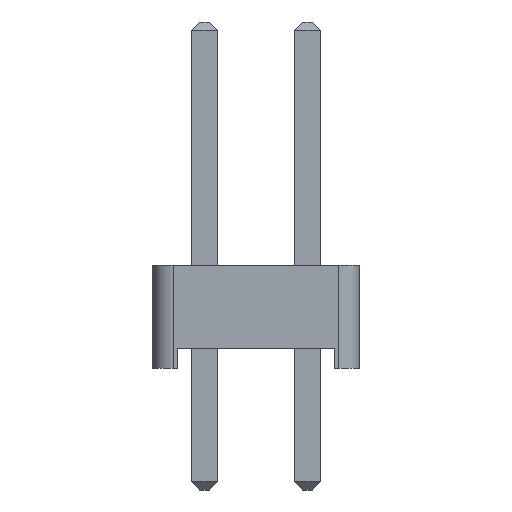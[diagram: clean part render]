
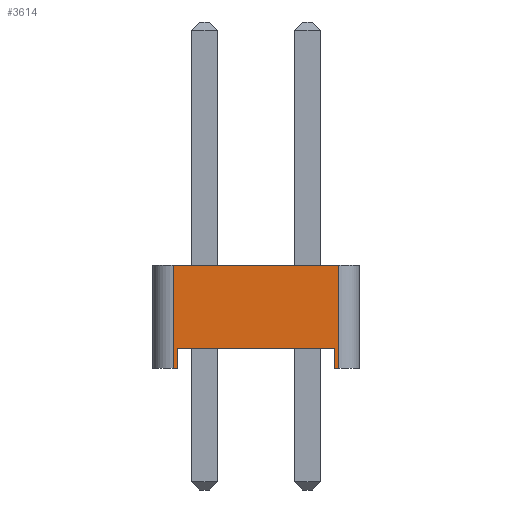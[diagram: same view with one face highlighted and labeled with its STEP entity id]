
A CAD part, left-side view. The second image highlights one B-rep face of the part: STEP entity #3614.
In plain terms, the highlighted planar face has unit normal (-1, 0, 0).
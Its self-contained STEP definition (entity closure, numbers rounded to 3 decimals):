
#3354 = VERTEX_POINT('',#3355);
#3355 = CARTESIAN_POINT('',(-1.27,2.04,0.));
#3363 = PLANE('',#3364);
#3364 = AXIS2_PLACEMENT_3D('',#3365,#3366,#3367);
#3365 = CARTESIAN_POINT('',(0.,0.,0.));
#3366 = DIRECTION('',(-0.,-0.,-1.));
#3367 = DIRECTION('',(-1.,0.,0.));
#3379 = CYLINDRICAL_SURFACE('',#3380,0.5);
#3380 = AXIS2_PLACEMENT_3D('',#3381,#3382,#3383);
#3381 = CARTESIAN_POINT('',(-0.77,2.04,0.));
#3382 = DIRECTION('',(0.,0.,1.));
#3383 = DIRECTION('',(0.,1.,0.));
#3481 = VERTEX_POINT('',#3482);
#3482 = CARTESIAN_POINT('',(-1.27,1.94,0.));
#3496 = PLANE('',#3497);
#3497 = AXIS2_PLACEMENT_3D('',#3498,#3499,#3500);
#3498 = CARTESIAN_POINT('',(1.27,1.94,0.));
#3499 = DIRECTION('',(0.,-1.,0.));
#3500 = DIRECTION('',(-1.,0.,0.));
#3508 = EDGE_CURVE('',#3481,#3354,#3509,.T.);
#3509 = SURFACE_CURVE('',#3510,(#3514,#3521),.PCURVE_S1.);
#3510 = LINE('',#3511,#3512);
#3511 = CARTESIAN_POINT('',(-1.27,-2.54,0.));
#3512 = VECTOR('',#3513,1.);
#3513 = DIRECTION('',(0.,1.,0.));
#3514 = PCURVE('',#3363,#3515);
#3515 = DEFINITIONAL_REPRESENTATION('',(#3516),#3520);
#3516 = LINE('',#3517,#3518);
#3517 = CARTESIAN_POINT('',(1.27,-2.54));
#3518 = VECTOR('',#3519,1.);
#3519 = DIRECTION('',(0.,1.));
#3520 = ( GEOMETRIC_REPRESENTATION_CONTEXT(2) 
PARAMETRIC_REPRESENTATION_CONTEXT() REPRESENTATION_CONTEXT('2D SPACE',''
  ) );
#3521 = PCURVE('',#3522,#3527);
#3522 = PLANE('',#3523);
#3523 = AXIS2_PLACEMENT_3D('',#3524,#3525,#3526);
#3524 = CARTESIAN_POINT('',(-1.27,-2.54,0.));
#3525 = DIRECTION('',(-1.,0.,0.));
#3526 = DIRECTION('',(0.,1.,0.));
#3527 = DEFINITIONAL_REPRESENTATION('',(#3528),#3532);
#3528 = LINE('',#3529,#3530);
#3529 = CARTESIAN_POINT('',(0.,0.));
#3530 = VECTOR('',#3531,1.);
#3531 = DIRECTION('',(1.,0.));
#3532 = ( GEOMETRIC_REPRESENTATION_CONTEXT(2) 
PARAMETRIC_REPRESENTATION_CONTEXT() REPRESENTATION_CONTEXT('2D SPACE',''
  ) );
#3538 = EDGE_CURVE('',#3354,#3539,#3541,.T.);
#3539 = VERTEX_POINT('',#3540);
#3540 = CARTESIAN_POINT('',(-1.27,2.04,2.54));
#3541 = SURFACE_CURVE('',#3542,(#3546,#3553),.PCURVE_S1.);
#3542 = LINE('',#3543,#3544);
#3543 = CARTESIAN_POINT('',(-1.27,2.04,0.));
#3544 = VECTOR('',#3545,1.);
#3545 = DIRECTION('',(0.,0.,1.));
#3546 = PCURVE('',#3379,#3547);
#3547 = DEFINITIONAL_REPRESENTATION('',(#3548),#3552);
#3548 = LINE('',#3549,#3550);
#3549 = CARTESIAN_POINT('',(1.571,0.));
#3550 = VECTOR('',#3551,1.);
#3551 = DIRECTION('',(0.,1.));
#3552 = ( GEOMETRIC_REPRESENTATION_CONTEXT(2) 
PARAMETRIC_REPRESENTATION_CONTEXT() REPRESENTATION_CONTEXT('2D SPACE',''
  ) );
#3553 = PCURVE('',#3522,#3554);
#3554 = DEFINITIONAL_REPRESENTATION('',(#3555),#3559);
#3555 = LINE('',#3556,#3557);
#3556 = CARTESIAN_POINT('',(4.58,0.));
#3557 = VECTOR('',#3558,1.);
#3558 = DIRECTION('',(0.,-1.));
#3559 = ( GEOMETRIC_REPRESENTATION_CONTEXT(2) 
PARAMETRIC_REPRESENTATION_CONTEXT() REPRESENTATION_CONTEXT('2D SPACE',''
  ) );
#3578 = PLANE('',#3579);
#3579 = AXIS2_PLACEMENT_3D('',#3580,#3581,#3582);
#3580 = CARTESIAN_POINT('',(0.,0.,2.54));
#3581 = DIRECTION('',(-0.,-0.,-1.));
#3582 = DIRECTION('',(-1.,0.,0.));
#3614 = ADVANCED_FACE('',(#3615),#3522,.T.);
#3615 = FACE_BOUND('',#3616,.T.);
#3616 = EDGE_LOOP('',(#3617,#3647,#3675,#3696,#3697,#3698,#3721,#3749));
#3617 = ORIENTED_EDGE('',*,*,#3618,.F.);
#3618 = EDGE_CURVE('',#3619,#3621,#3623,.T.);
#3619 = VERTEX_POINT('',#3620);
#3620 = CARTESIAN_POINT('',(-1.27,-2.04,0.));
#3621 = VERTEX_POINT('',#3622);
#3622 = CARTESIAN_POINT('',(-1.27,-1.94,0.));
#3623 = SURFACE_CURVE('',#3624,(#3628,#3635),.PCURVE_S1.);
#3624 = LINE('',#3625,#3626);
#3625 = CARTESIAN_POINT('',(-1.27,-2.54,0.));
#3626 = VECTOR('',#3627,1.);
#3627 = DIRECTION('',(0.,1.,0.));
#3628 = PCURVE('',#3522,#3629);
#3629 = DEFINITIONAL_REPRESENTATION('',(#3630),#3634);
#3630 = LINE('',#3631,#3632);
#3631 = CARTESIAN_POINT('',(0.,0.));
#3632 = VECTOR('',#3633,1.);
#3633 = DIRECTION('',(1.,0.));
#3634 = ( GEOMETRIC_REPRESENTATION_CONTEXT(2) 
PARAMETRIC_REPRESENTATION_CONTEXT() REPRESENTATION_CONTEXT('2D SPACE',''
  ) );
#3635 = PCURVE('',#3636,#3641);
#3636 = PLANE('',#3637);
#3637 = AXIS2_PLACEMENT_3D('',#3638,#3639,#3640);
#3638 = CARTESIAN_POINT('',(0.,0.,0.));
#3639 = DIRECTION('',(-0.,-0.,-1.));
#3640 = DIRECTION('',(-1.,0.,0.));
#3641 = DEFINITIONAL_REPRESENTATION('',(#3642),#3646);
#3642 = LINE('',#3643,#3644);
#3643 = CARTESIAN_POINT('',(1.27,-2.54));
#3644 = VECTOR('',#3645,1.);
#3645 = DIRECTION('',(0.,1.));
#3646 = ( GEOMETRIC_REPRESENTATION_CONTEXT(2) 
PARAMETRIC_REPRESENTATION_CONTEXT() REPRESENTATION_CONTEXT('2D SPACE',''
  ) );
#3647 = ORIENTED_EDGE('',*,*,#3648,.T.);
#3648 = EDGE_CURVE('',#3619,#3649,#3651,.T.);
#3649 = VERTEX_POINT('',#3650);
#3650 = CARTESIAN_POINT('',(-1.27,-2.04,2.54));
#3651 = SURFACE_CURVE('',#3652,(#3656,#3663),.PCURVE_S1.);
#3652 = LINE('',#3653,#3654);
#3653 = CARTESIAN_POINT('',(-1.27,-2.04,0.));
#3654 = VECTOR('',#3655,1.);
#3655 = DIRECTION('',(0.,0.,1.));
#3656 = PCURVE('',#3522,#3657);
#3657 = DEFINITIONAL_REPRESENTATION('',(#3658),#3662);
#3658 = LINE('',#3659,#3660);
#3659 = CARTESIAN_POINT('',(0.5,0.));
#3660 = VECTOR('',#3661,1.);
#3661 = DIRECTION('',(0.,-1.));
#3662 = ( GEOMETRIC_REPRESENTATION_CONTEXT(2) 
PARAMETRIC_REPRESENTATION_CONTEXT() REPRESENTATION_CONTEXT('2D SPACE',''
  ) );
#3663 = PCURVE('',#3664,#3669);
#3664 = CYLINDRICAL_SURFACE('',#3665,0.5);
#3665 = AXIS2_PLACEMENT_3D('',#3666,#3667,#3668);
#3666 = CARTESIAN_POINT('',(-0.77,-2.04,0.));
#3667 = DIRECTION('',(0.,0.,1.));
#3668 = DIRECTION('',(0.,-1.,0.));
#3669 = DEFINITIONAL_REPRESENTATION('',(#3670),#3674);
#3670 = LINE('',#3671,#3672);
#3671 = CARTESIAN_POINT('',(-1.571,0.));
#3672 = VECTOR('',#3673,1.);
#3673 = DIRECTION('',(-0.,1.));
#3674 = ( GEOMETRIC_REPRESENTATION_CONTEXT(2) 
PARAMETRIC_REPRESENTATION_CONTEXT() REPRESENTATION_CONTEXT('2D SPACE',''
  ) );
#3675 = ORIENTED_EDGE('',*,*,#3676,.T.);
#3676 = EDGE_CURVE('',#3649,#3539,#3677,.T.);
#3677 = SURFACE_CURVE('',#3678,(#3682,#3689),.PCURVE_S1.);
#3678 = LINE('',#3679,#3680);
#3679 = CARTESIAN_POINT('',(-1.27,-2.54,2.54));
#3680 = VECTOR('',#3681,1.);
#3681 = DIRECTION('',(0.,1.,0.));
#3682 = PCURVE('',#3522,#3683);
#3683 = DEFINITIONAL_REPRESENTATION('',(#3684),#3688);
#3684 = LINE('',#3685,#3686);
#3685 = CARTESIAN_POINT('',(0.,-2.54));
#3686 = VECTOR('',#3687,1.);
#3687 = DIRECTION('',(1.,0.));
#3688 = ( GEOMETRIC_REPRESENTATION_CONTEXT(2) 
PARAMETRIC_REPRESENTATION_CONTEXT() REPRESENTATION_CONTEXT('2D SPACE',''
  ) );
#3689 = PCURVE('',#3578,#3690);
#3690 = DEFINITIONAL_REPRESENTATION('',(#3691),#3695);
#3691 = LINE('',#3692,#3693);
#3692 = CARTESIAN_POINT('',(1.27,-2.54));
#3693 = VECTOR('',#3694,1.);
#3694 = DIRECTION('',(0.,1.));
#3695 = ( GEOMETRIC_REPRESENTATION_CONTEXT(2) 
PARAMETRIC_REPRESENTATION_CONTEXT() REPRESENTATION_CONTEXT('2D SPACE',''
  ) );
#3696 = ORIENTED_EDGE('',*,*,#3538,.F.);
#3697 = ORIENTED_EDGE('',*,*,#3508,.F.);
#3698 = ORIENTED_EDGE('',*,*,#3699,.T.);
#3699 = EDGE_CURVE('',#3481,#3700,#3702,.T.);
#3700 = VERTEX_POINT('',#3701);
#3701 = CARTESIAN_POINT('',(-1.27,1.94,0.5));
#3702 = SURFACE_CURVE('',#3703,(#3707,#3714),.PCURVE_S1.);
#3703 = LINE('',#3704,#3705);
#3704 = CARTESIAN_POINT('',(-1.27,1.94,0.));
#3705 = VECTOR('',#3706,1.);
#3706 = DIRECTION('',(0.,0.,1.));
#3707 = PCURVE('',#3522,#3708);
#3708 = DEFINITIONAL_REPRESENTATION('',(#3709),#3713);
#3709 = LINE('',#3710,#3711);
#3710 = CARTESIAN_POINT('',(4.48,0.));
#3711 = VECTOR('',#3712,1.);
#3712 = DIRECTION('',(0.,-1.));
#3713 = ( GEOMETRIC_REPRESENTATION_CONTEXT(2) 
PARAMETRIC_REPRESENTATION_CONTEXT() REPRESENTATION_CONTEXT('2D SPACE',''
  ) );
#3714 = PCURVE('',#3496,#3715);
#3715 = DEFINITIONAL_REPRESENTATION('',(#3716),#3720);
#3716 = LINE('',#3717,#3718);
#3717 = CARTESIAN_POINT('',(2.54,0.));
#3718 = VECTOR('',#3719,1.);
#3719 = DIRECTION('',(0.,-1.));
#3720 = ( GEOMETRIC_REPRESENTATION_CONTEXT(2) 
PARAMETRIC_REPRESENTATION_CONTEXT() REPRESENTATION_CONTEXT('2D SPACE',''
  ) );
#3721 = ORIENTED_EDGE('',*,*,#3722,.T.);
#3722 = EDGE_CURVE('',#3700,#3723,#3725,.T.);
#3723 = VERTEX_POINT('',#3724);
#3724 = CARTESIAN_POINT('',(-1.27,-1.94,0.5));
#3725 = SURFACE_CURVE('',#3726,(#3730,#3737),.PCURVE_S1.);
#3726 = LINE('',#3727,#3728);
#3727 = CARTESIAN_POINT('',(-1.27,1.94,0.5));
#3728 = VECTOR('',#3729,1.);
#3729 = DIRECTION('',(0.,-1.,0.));
#3730 = PCURVE('',#3522,#3731);
#3731 = DEFINITIONAL_REPRESENTATION('',(#3732),#3736);
#3732 = LINE('',#3733,#3734);
#3733 = CARTESIAN_POINT('',(4.48,-0.5));
#3734 = VECTOR('',#3735,1.);
#3735 = DIRECTION('',(-1.,0.));
#3736 = ( GEOMETRIC_REPRESENTATION_CONTEXT(2) 
PARAMETRIC_REPRESENTATION_CONTEXT() REPRESENTATION_CONTEXT('2D SPACE',''
  ) );
#3737 = PCURVE('',#3738,#3743);
#3738 = PLANE('',#3739);
#3739 = AXIS2_PLACEMENT_3D('',#3740,#3741,#3742);
#3740 = CARTESIAN_POINT('',(0.,0.,0.5));
#3741 = DIRECTION('',(0.,0.,1.));
#3742 = DIRECTION('',(1.,0.,0.));
#3743 = DEFINITIONAL_REPRESENTATION('',(#3744),#3748);
#3744 = LINE('',#3745,#3746);
#3745 = CARTESIAN_POINT('',(-1.27,1.94));
#3746 = VECTOR('',#3747,1.);
#3747 = DIRECTION('',(0.,-1.));
#3748 = ( GEOMETRIC_REPRESENTATION_CONTEXT(2) 
PARAMETRIC_REPRESENTATION_CONTEXT() REPRESENTATION_CONTEXT('2D SPACE',''
  ) );
#3749 = ORIENTED_EDGE('',*,*,#3750,.F.);
#3750 = EDGE_CURVE('',#3621,#3723,#3751,.T.);
#3751 = SURFACE_CURVE('',#3752,(#3756,#3763),.PCURVE_S1.);
#3752 = LINE('',#3753,#3754);
#3753 = CARTESIAN_POINT('',(-1.27,-1.94,0.));
#3754 = VECTOR('',#3755,1.);
#3755 = DIRECTION('',(0.,0.,1.));
#3756 = PCURVE('',#3522,#3757);
#3757 = DEFINITIONAL_REPRESENTATION('',(#3758),#3762);
#3758 = LINE('',#3759,#3760);
#3759 = CARTESIAN_POINT('',(0.6,0.));
#3760 = VECTOR('',#3761,1.);
#3761 = DIRECTION('',(0.,-1.));
#3762 = ( GEOMETRIC_REPRESENTATION_CONTEXT(2) 
PARAMETRIC_REPRESENTATION_CONTEXT() REPRESENTATION_CONTEXT('2D SPACE',''
  ) );
#3763 = PCURVE('',#3764,#3769);
#3764 = PLANE('',#3765);
#3765 = AXIS2_PLACEMENT_3D('',#3766,#3767,#3768);
#3766 = CARTESIAN_POINT('',(-1.27,-1.94,0.));
#3767 = DIRECTION('',(0.,1.,0.));
#3768 = DIRECTION('',(1.,0.,0.));
#3769 = DEFINITIONAL_REPRESENTATION('',(#3770),#3774);
#3770 = LINE('',#3771,#3772);
#3771 = CARTESIAN_POINT('',(0.,0.));
#3772 = VECTOR('',#3773,1.);
#3773 = DIRECTION('',(0.,-1.));
#3774 = ( GEOMETRIC_REPRESENTATION_CONTEXT(2) 
PARAMETRIC_REPRESENTATION_CONTEXT() REPRESENTATION_CONTEXT('2D SPACE',''
  ) );
